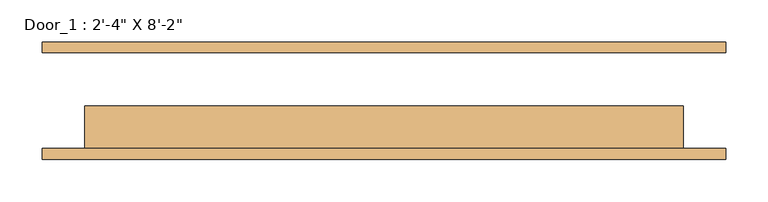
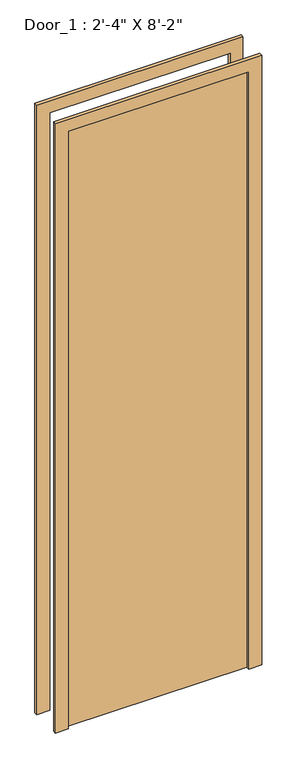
"""IFC4 building model written with IfcOpenShell, lengths in millimetres: door geometry."""

from ifc_helpers import new_model, si_unit, frame, origin, origin_with_axes, place, context, project, spatial, polyline, outline, extrude, source, transform, mapped, element, save


def door_ed5eb43b(model_context):
    return source(origin(), model_context, "Body", "SweptSolid", [
        extrude(outline(polyline([(2540.0, -406.4), (0.0, -406.4), (0.0, -355.6), (2489.2, -355.6), (2489.2, 355.6), (0.0, 355.6), (0.0, 406.4), (2540.0, 406.4), (2540.0, -406.4)])), frame((0.0, -69.85, 0.0), z_axis=(0.0, 1.0, 0.0), x_axis=(0.0, 0.0, 1.0)), (0.0, 0.0, 1.0), 12.7),
        extrude(outline(polyline([(2540.0, 406.4), (2540.0, -406.4), (0.0, -406.4), (0.0, -355.6), (2489.2, -355.6), (2489.2, 355.6), (0.0, 355.6), (0.0, 406.4), (2540.0, 406.4)])), frame((0.0, 57.15, 0.0), z_axis=(0.0, 1.0, 0.0), x_axis=(0.0, 0.0, 1.0)), (0.0, 0.0, 1.0), 12.7),
        extrude(outline(polyline([(355.6, -6.35), (355.6, -57.15), (-355.6, -57.15), (-355.6, -6.35), (355.6, -6.35)])), origin_with_axes(), (0.0, 0.0, 1.0), 2489.2),
    ])


if __name__ == "__main__":
    model = new_model("IFC4")
    model_context = context("Model", 3, world=origin())
    ifc_project = project(units=[si_unit("LENGTHUNIT", "METRE", prefix="MILLI")], contexts=[model_context])
    site = spatial("IfcSite", under=ifc_project)
    building = spatial("IfcBuilding", under=site)
    placement = place(None, origin())
    door_shape = door_ed5eb43b(model_context)
    element("IfcDoor", 1, ObjectType="Door_1 : 2'-4\" X 8'-2\"", at=placement, inside=building, context=model_context, shape_type="MappedRepresentation", body=[
        mapped(door_shape, transform((0.0, 0.0, 0.0), x_axis=(1.0, 0.0, 0.0), y_axis=(0.0, 1.0, 0.0), z_axis=(0.0, 0.0, 1.0))),
    ])
    save(model, "model.ifc")
